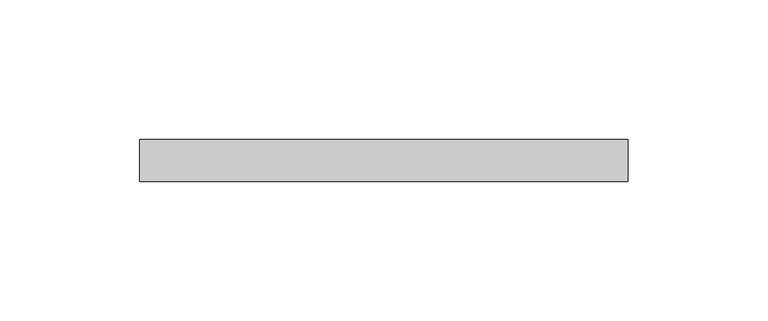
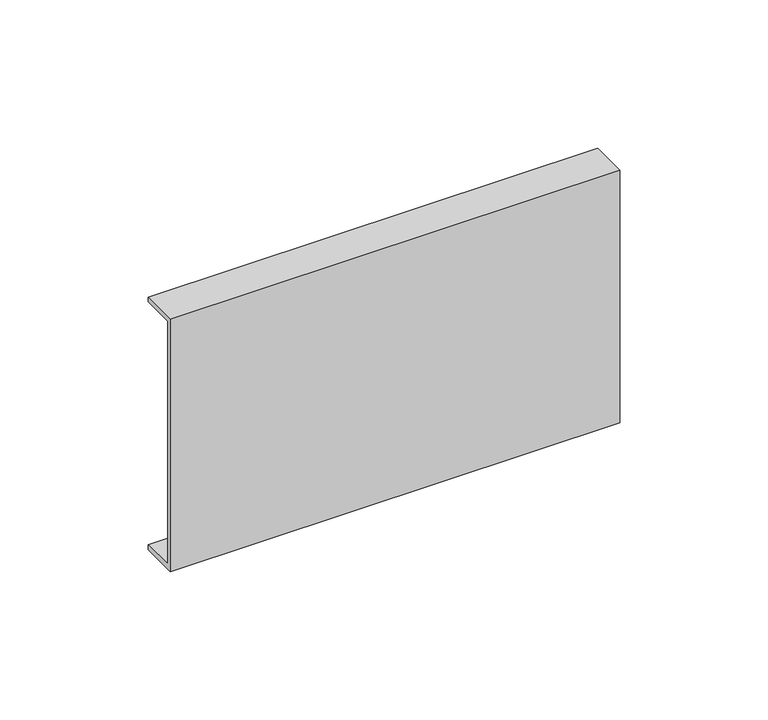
"""IFC4 building model written with IfcOpenShell, lengths in millimetres: cable carrier fitting geometry, BAKS_LD_CONN_Straight connector_LDC : LDC_H100."""

from ifc_helpers import new_model, si_unit, frame, origin, place, context, project, spatial, polyline, outline, extrude, source, transform, mapped, element, save


def cable_carrier_fitting_97db74c1(model_context):
    return source(origin(), model_context, "Body", "SweptSolid", [
        extrude(outline(polyline([(-2.0, 52.0), (13.0, 52.0), (13.0, 50.0), (0.0, 50.0), (0.0, -50.0), (13.0, -50.0), (13.0, -52.0), (-2.0, -52.0), (-2.0, 52.0)])), frame((-87.5, 0.0, 0.0), z_axis=(1.0, 0.0, 0.0), x_axis=(0.0, 1.0, 0.0)), (0.0, 0.0, 1.0), 175.0),
    ])


if __name__ == "__main__":
    model = new_model("IFC4")
    model_context = context("Model", 3, world=origin())
    ifc_project = project(units=[si_unit("LENGTHUNIT", "METRE", prefix="MILLI")], contexts=[model_context])
    site = spatial("IfcSite", under=ifc_project)
    building = spatial("IfcBuilding", under=site)
    placement = place(None, origin())
    cable_carrier_fitting_shape = cable_carrier_fitting_97db74c1(model_context)
    element("IfcCableCarrierFitting", 1, ObjectType="BAKS_LD_CONN_Straight connector_LDC : LDC_H100", at=placement, inside=building, context=model_context, shape_type="MappedRepresentation", body=[
        mapped(cable_carrier_fitting_shape, transform((0.0, 0.0, 0.0), x_axis=(1.0, 0.0, 0.0), y_axis=(0.0, 1.0, 0.0), z_axis=(0.0, 0.0, 1.0))),
    ])
    save(model, "model.ifc")
